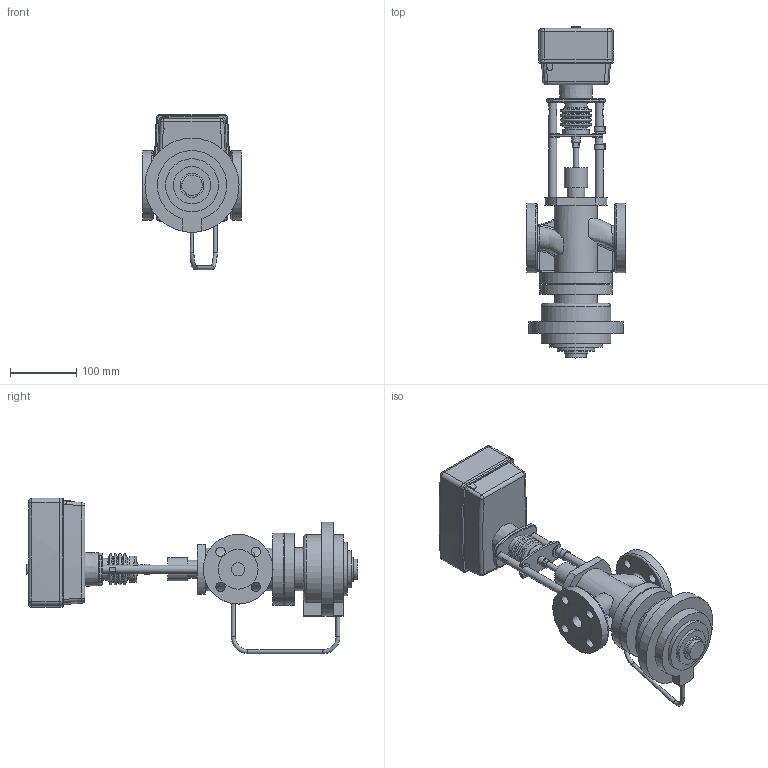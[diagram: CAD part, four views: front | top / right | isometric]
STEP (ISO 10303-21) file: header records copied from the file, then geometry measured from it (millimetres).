
FILE_DESCRIPTION(/* description */ ('Unknown'),/* implementation_level */ '2;1');
FILE_NAME(/* name */ 'Клапан TVC-20-101',/* time_stamp */ '2021-11-23T11:08:52+03:00',/* author */ ('Unknown'),/* organization */ ('Unknown'),/* preprocessor_version */ 'ST-DEVELOPER v16.7',/* originating_system */ 'DEX',/* authorisation */ $);
FILE_SCHEMA (('AUTOMOTIVE_DESIGN {1 0 10303 214 3 1 1}'));
Length unit declared in the file: millimetre
Products named in the file (1): 抔黽鳧 TVC-20-101
Bounding box: 150 x 500.71 x 234.22 mm (x, y, z)
Volume: 3452220.7 mm3; surface area: 304957 mm2
Topology: 1 solids, 2 shells, 438 faces, 1105 edges, 694 vertices
Faces by surface type: plane 176, cylinder 113, bspline 54, torus 49, cone 38, sphere 8
Full cylindrical faces by diameter (mm): 4 x1, 6 x3, 8 x1, 8.5 x1, 12.002 x4, 13 x1, 14 x8, 15 x1, 18 x2, 20 x2, 27 x1, 30.68 x1, 33.4 x1, 33.972 x1, 35 x1, 36 x1, 40 x1, 56 x1, 60 x2, 64.624 x1, 65 x2, 80 x1, 105 x2, 109 x2, 142 x1
Entity records: 18873 total; most frequent: CARTESIAN_POINT 6141, DIRECTION 1980, ORIENTED_EDGE 1920, EDGE_CURVE 960, AXIS2_PLACEMENT_3D 804, VERTEX_POINT 635, EDGE_LOOP 573, FACE_BOUND 573
